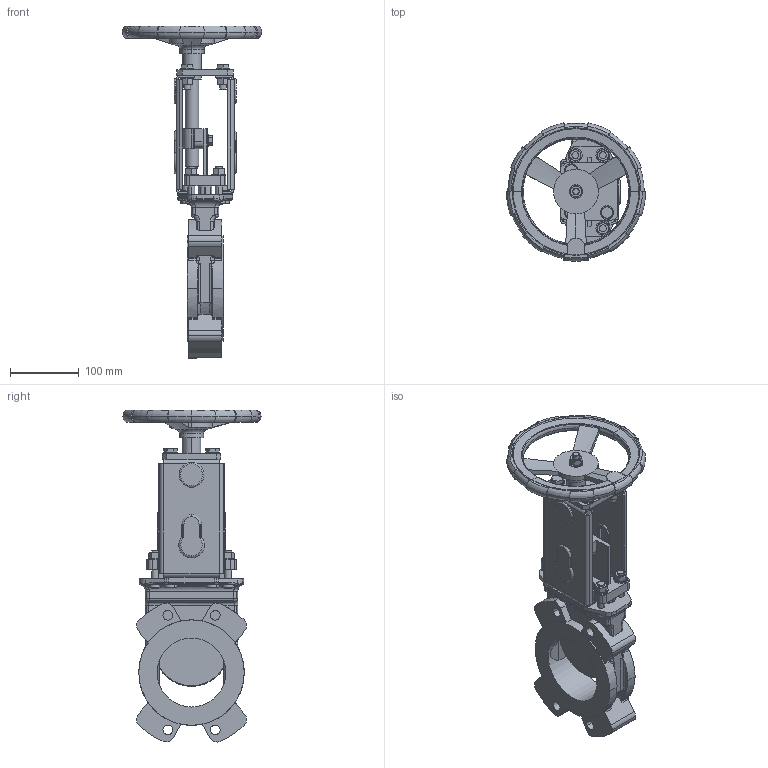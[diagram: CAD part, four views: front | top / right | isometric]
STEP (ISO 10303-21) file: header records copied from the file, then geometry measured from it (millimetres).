
FILE_DESCRIPTION(('STEP AP203'),'1');
FILE_NAME('G:/KONSTRUK/3-d block för CD/WB VALVE/HAND WHEEL/100/WB11-DN100-PN10-HW.stp','2013-03-05T15:26:25',(' '),(' '),'Spatial InterOp 3D',' ',' ');
FILE_SCHEMA(('CONFIG_CONTROL_DESIGN'));
Length unit declared in the file: millimetre
Products named in the file (7): 1; 2; 3; 4; 5; 6; 7
Bounding box: 202 x 200.29 x 481.66 mm (x, y, z)
Volume: 1857511.7 mm3; surface area: 376828 mm2
Topology: 7 solids, 19 shells, 1281 faces, 3155 edges, 1982 vertices
Faces by surface type: plane 487, cylinder 421, cone 221, torus 101, bspline 51
Entity records: 46497 total; most frequent: CARTESIAN_POINT 16288, DIRECTION 6427, ORIENTED_EDGE 6290, EDGE_CURVE 3145, AXIS2_PLACEMENT_3D 2605, VERTEX_POINT 1982, EDGE_LOOP 1403, CIRCLE 1348
